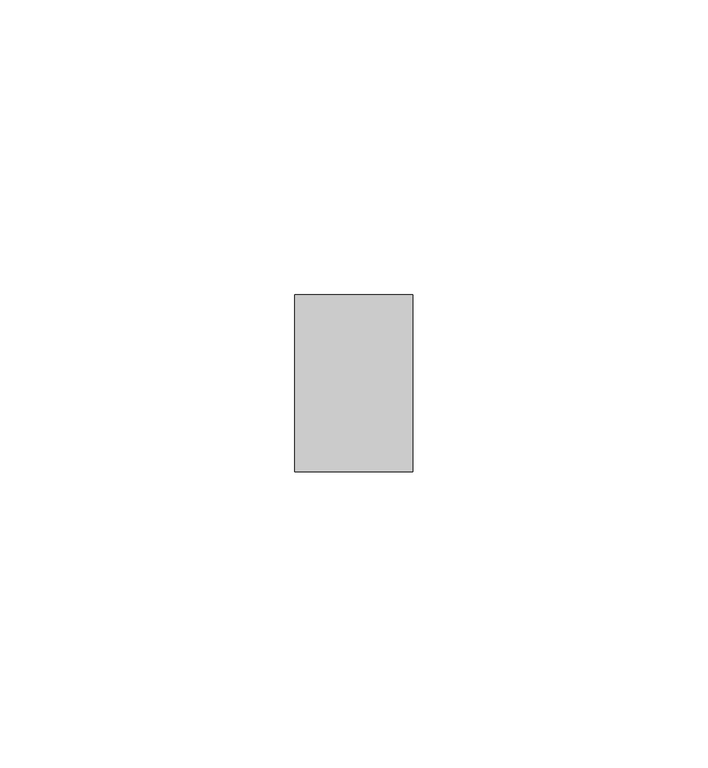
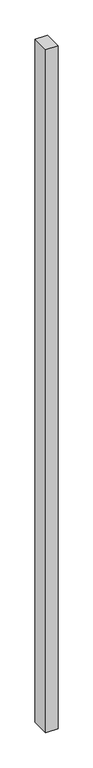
"""IFC4 building model written with IfcOpenShell, lengths in millimetres: member geometry, Прямоугольный импост : Квадрат 10 мм - Зазор между навесными плитами."""

from ifc_helpers import new_model, si_unit, frame, origin, place, context, project, spatial, polyline, outline, extrude, source, transform, mapped, element, save


def member_0b79060d(model_context):
    return source(origin(), model_context, "Body", "SweptSolid", [
        extrude(outline(polyline([(10.0, 15.0), (10.0, -15.0), (-10.0, -15.0), (-10.0, 15.0), (10.0, 15.0)])), frame((0.0, 0.0, -1180.0), z_axis=(0.0, 0.0, 1.0), x_axis=(1.0, 0.0, 0.0)), (0.0, 0.0, 1.0), 1180.0),
    ])


if __name__ == "__main__":
    model = new_model("IFC4")
    model_context = context("Model", 3, world=origin())
    ifc_project = project(units=[si_unit("LENGTHUNIT", "METRE", prefix="MILLI")], contexts=[model_context])
    site = spatial("IfcSite", under=ifc_project)
    building = spatial("IfcBuilding", under=site)
    placement = place(None, origin())
    member_shape = member_0b79060d(model_context)
    element("IfcMember", 1, ObjectType="Прямоугольный импост : Квадрат 10 мм - Зазор между навесными плитами", at=placement, inside=building, context=model_context, shape_type="MappedRepresentation", body=[
        mapped(member_shape, transform((0.0, 0.0, 0.0), x_axis=(1.0, 0.0, 0.0), y_axis=(0.0, 1.0, 0.0), z_axis=(0.0, 0.0, 1.0))),
    ])
    save(model, "model.ifc")
